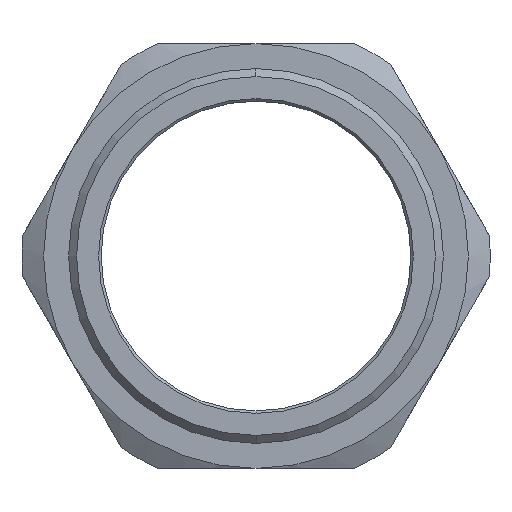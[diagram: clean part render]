
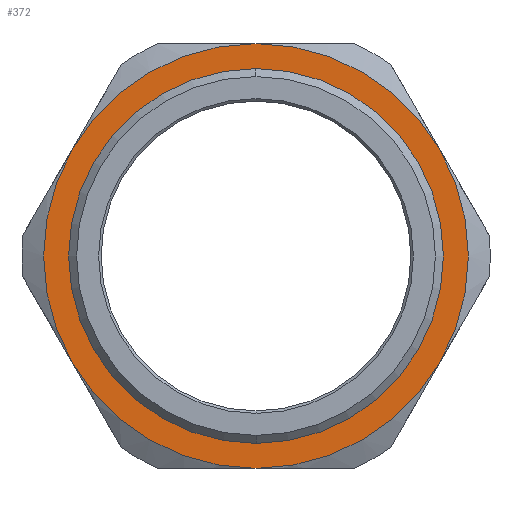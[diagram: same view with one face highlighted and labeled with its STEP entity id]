
A CAD part, left-side view. The second image highlights one B-rep face of the part: STEP entity #372.
In plain terms, the highlighted planar face has unit normal (-1, 0, 0).
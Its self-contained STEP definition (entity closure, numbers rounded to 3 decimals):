
#10 = DIRECTION ( 'NONE',  ( 1., 0., 0. ) ) ;
#15 = CARTESIAN_POINT ( 'NONE',  ( -28., 0., 0. ) ) ;
#57 = DIRECTION ( 'NONE',  ( 0., 0., -1. ) ) ;
#97 = FACE_BOUND ( 'NONE', #590, .T. ) ;
#111 = FACE_OUTER_BOUND ( 'NONE', #585, .T. ) ;
#205 = CIRCLE ( 'NONE', #927, 42.5 ) ;
#208 = CIRCLE ( 'NONE', #928, 42.5 ) ;
#254 = CIRCLE ( 'NONE', #919, 42.5 ) ;
#260 = CIRCLE ( 'NONE', #913, 42.5 ) ;
#261 = CIRCLE ( 'NONE', #904, 42.5 ) ;
#262 = CIRCLE ( 'NONE', #729, 42.5 ) ;
#263 = CIRCLE ( 'NONE', #737, 37.05 ) ;
#275 = CIRCLE ( 'NONE', #751, 37.05 ) ;
#372 = ADVANCED_FACE ( 'NONE', ( #97, #111 ), #1228, .F. ) ;
#585 = EDGE_LOOP ( 'NONE', ( #1728, #1721, #1720, #1777, #1774, #1773 ) ) ;
#590 = EDGE_LOOP ( 'NONE', ( #1776, #1723 ) ) ;
#597 = VERTEX_POINT ( 'NONE', #986 ) ;
#626 = VERTEX_POINT ( 'NONE', #1664 ) ;
#630 = VERTEX_POINT ( 'NONE', #1660 ) ;
#631 = VERTEX_POINT ( 'NONE', #1659 ) ;
#649 = VERTEX_POINT ( 'NONE', #1640 ) ;
#664 = VERTEX_POINT ( 'NONE', #1591 ) ;
#667 = VERTEX_POINT ( 'NONE', #1588 ) ;
#669 = VERTEX_POINT ( 'NONE', #1551 ) ;
#729 = AXIS2_PLACEMENT_3D ( 'NONE', #1005, #1004, #1002 ) ;
#737 = AXIS2_PLACEMENT_3D ( 'NONE', #1000, #999, #998 ) ;
#751 = AXIS2_PLACEMENT_3D ( 'NONE', #15, #10, #57 ) ;
#753 = EDGE_CURVE ( 'NONE', #630, #597, #205, .T. ) ;
#754 = EDGE_CURVE ( 'NONE', #669, #649, #208, .T. ) ;
#812 = EDGE_CURVE ( 'NONE', #597, #669, #260, .T. ) ;
#813 = EDGE_CURVE ( 'NONE', #649, #667, #254, .T. ) ;
#814 = EDGE_CURVE ( 'NONE', #667, #664, #261, .T. ) ;
#815 = EDGE_CURVE ( 'NONE', #664, #630, #262, .T. ) ;
#816 = EDGE_CURVE ( 'NONE', #631, #626, #263, .T. ) ;
#826 = EDGE_CURVE ( 'NONE', #626, #631, #275, .T. ) ;
#880 = AXIS2_PLACEMENT_3D ( 'NONE', #1227, #1202, #1200 ) ;
#904 = AXIS2_PLACEMENT_3D ( 'NONE', #1010, #1009, #1008 ) ;
#913 = AXIS2_PLACEMENT_3D ( 'NONE', #1018, #1017, #1015 ) ;
#919 = AXIS2_PLACEMENT_3D ( 'NONE', #1014, #1012, #1011 ) ;
#927 = AXIS2_PLACEMENT_3D ( 'NONE', #1309, #1308, #1307 ) ;
#928 = AXIS2_PLACEMENT_3D ( 'NONE', #1306, #1304, #1303 ) ;
#986 = CARTESIAN_POINT ( 'NONE',  ( -28., 36.806, -21.25 ) ) ;
#998 = DIRECTION ( 'NONE',  ( 0., 0., -1. ) ) ;
#999 = DIRECTION ( 'NONE',  ( 1., 0., 0. ) ) ;
#1000 = CARTESIAN_POINT ( 'NONE',  ( -28., 0., 0. ) ) ;
#1002 = DIRECTION ( 'NONE',  ( 0., 0., -1. ) ) ;
#1004 = DIRECTION ( 'NONE',  ( 1., 0., 0. ) ) ;
#1005 = CARTESIAN_POINT ( 'NONE',  ( -28., 0., 0. ) ) ;
#1008 = DIRECTION ( 'NONE',  ( 0., 0., -1. ) ) ;
#1009 = DIRECTION ( 'NONE',  ( 1., 0., 0. ) ) ;
#1010 = CARTESIAN_POINT ( 'NONE',  ( -28., 0., 0. ) ) ;
#1011 = DIRECTION ( 'NONE',  ( 0., 0., -1. ) ) ;
#1012 = DIRECTION ( 'NONE',  ( 1., 0., 0. ) ) ;
#1014 = CARTESIAN_POINT ( 'NONE',  ( -28., 0., 0. ) ) ;
#1015 = DIRECTION ( 'NONE',  ( 0., 0., -1. ) ) ;
#1017 = DIRECTION ( 'NONE',  ( 1., 0., 0. ) ) ;
#1018 = CARTESIAN_POINT ( 'NONE',  ( -28., 0., 0. ) ) ;
#1200 = DIRECTION ( 'NONE',  ( 0., 0., -1. ) ) ;
#1202 = DIRECTION ( 'NONE',  ( 1., 0., 0. ) ) ;
#1227 = CARTESIAN_POINT ( 'NONE',  ( -28., 52.5, 0. ) ) ;
#1228 = PLANE ( 'NONE',  #880 ) ;
#1303 = DIRECTION ( 'NONE',  ( 0., 0., -1. ) ) ;
#1304 = DIRECTION ( 'NONE',  ( 1., 0., 0. ) ) ;
#1306 = CARTESIAN_POINT ( 'NONE',  ( -28., 0., 0. ) ) ;
#1307 = DIRECTION ( 'NONE',  ( 0., 0., -1. ) ) ;
#1308 = DIRECTION ( 'NONE',  ( 1., 0., 0. ) ) ;
#1309 = CARTESIAN_POINT ( 'NONE',  ( -28., 0., 0. ) ) ;
#1551 = CARTESIAN_POINT ( 'NONE',  ( -28., 36.806, 21.25 ) ) ;
#1588 = CARTESIAN_POINT ( 'NONE',  ( -28., -36.806, 21.25 ) ) ;
#1591 = CARTESIAN_POINT ( 'NONE',  ( -28., -36.806, -21.25 ) ) ;
#1640 = CARTESIAN_POINT ( 'NONE',  ( -28., 0., 42.5 ) ) ;
#1659 = CARTESIAN_POINT ( 'NONE',  ( -28., 0., -37.05 ) ) ;
#1660 = CARTESIAN_POINT ( 'NONE',  ( -28., 0., -42.5 ) ) ;
#1664 = CARTESIAN_POINT ( 'NONE',  ( -28., 0., 37.05 ) ) ;
#1720 = ORIENTED_EDGE ( 'NONE', *, *, #814, .F. ) ;
#1721 = ORIENTED_EDGE ( 'NONE', *, *, #815, .F. ) ;
#1723 = ORIENTED_EDGE ( 'NONE', *, *, #826, .T. ) ;
#1728 = ORIENTED_EDGE ( 'NONE', *, *, #753, .F. ) ;
#1773 = ORIENTED_EDGE ( 'NONE', *, *, #812, .F. ) ;
#1774 = ORIENTED_EDGE ( 'NONE', *, *, #754, .F. ) ;
#1776 = ORIENTED_EDGE ( 'NONE', *, *, #816, .T. ) ;
#1777 = ORIENTED_EDGE ( 'NONE', *, *, #813, .F. ) ;
